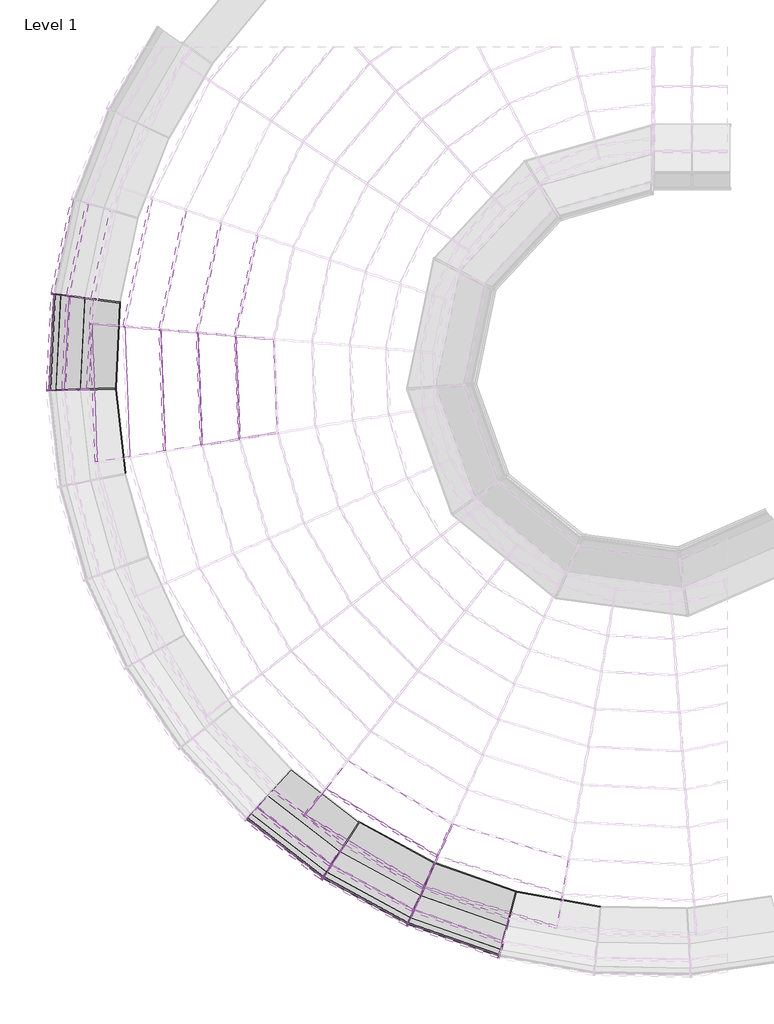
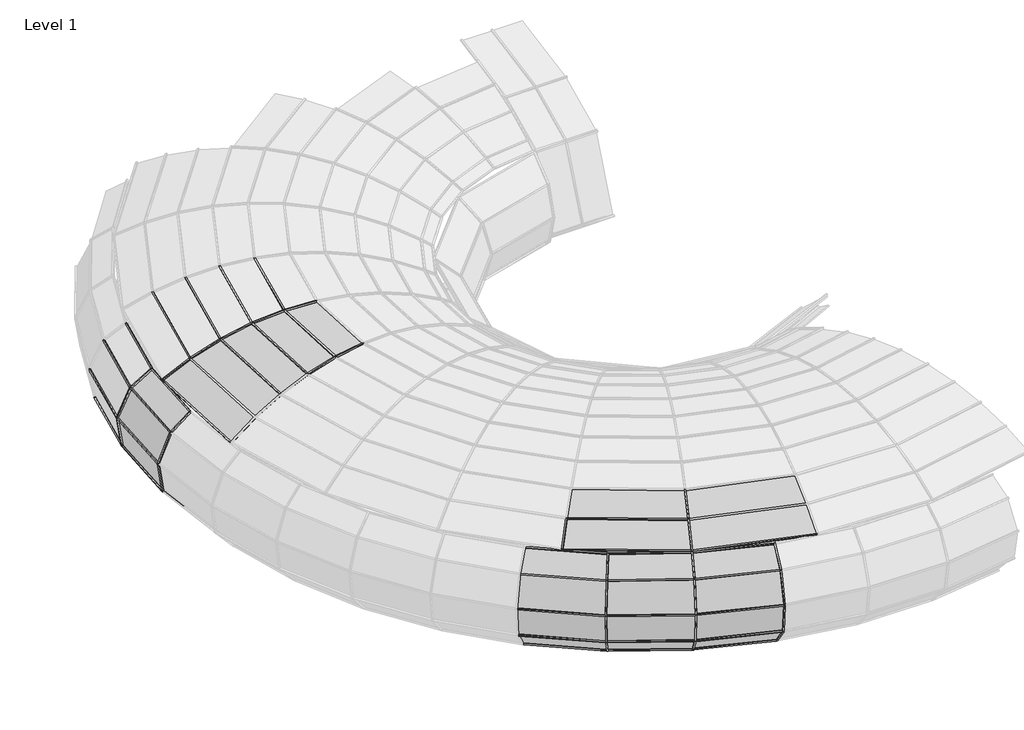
# One storey, part 2 of 23: 76 members, 29 plates.
"""IFC4 building model written with IfcOpenShell, lengths in millimetres."""

from ifc_helpers import new_model, si_unit, origin, place, context, project, spatial, transform, mapped, element, save
from components import member_6c4aaba8, member_0ea93e7c, member_01d9c279, member_12c77cbe, member_af15374c, member_9c203333, member_86c07ba8, member_0e8a41c0, member_f532ae18, member_ff5bcfe9, member_5080b2ef, member_d6b8231b, member_8c9da58c, member_391bee44, member_01ebdf2a, member_0cd36c09, member_e4cc2466, system_panel_glazed_dfe8d515, system_panel_glazed_f0cf6c0b, system_panel_glazed_2b57bb89, system_panel_glazed_39caee5c, system_panel_glazed_2fe36e08, system_panel_glazed_8ac96967, system_panel_glazed_5e26bc8e, system_panel_glazed_f7be4813, system_panel_glazed_5b1ce257, system_panel_glazed_7bf4cd1b

model = new_model("IFC4")

# Units and contexts
model_context = context("Model", 3, world=origin())
ifc_project = project(units=[si_unit("LENGTHUNIT", "METRE", prefix="MILLI")], contexts=[model_context])

# Site, building, storey
site = spatial("IfcSite", under=ifc_project)
building = spatial("IfcBuilding", under=site)
storey = spatial("IfcBuildingStorey", under=building, Name="Level 1", Elevation=0.0)

# Members
placement = place(None, origin())
member_shape = member_6c4aaba8(model_context)
element("IfcMember", 1, ObjectType="Rectangular Mullion : 1\" Square", at=placement, inside=storey, context=model_context, shape_type="MappedRepresentation", body=[
    mapped(member_shape, transform((-18234.6374664, -620.2137756, 2378.3537392), x_axis=(0.8858068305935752, -0.18815306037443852, 0.4241988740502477), y_axis=(-0.41494158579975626, 0.08813719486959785, 0.9055690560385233), z_axis=(-0.20777328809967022, -0.9781770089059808, 0.0))),
])
element("IfcMember", 2, ObjectType="Rectangular Mullion : 1\" Square", at=placement, inside=storey, context=model_context, shape_type="MappedRepresentation", body=[
    mapped(member_shape, transform((-13319.8966208, -8973.2732084, 2378.3537392), x_axis=(0.467424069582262, 0.7756094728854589, 0.4241988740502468), y_axis=(-0.21895708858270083, -0.36332145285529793, 0.9055690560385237), z_axis=(0.8564884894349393, -0.5161661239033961, 0.0))),
])
member_2_shape = member_0ea93e7c(model_context)
element("IfcMember", 3, ObjectType="Rectangular Mullion : 1\" Square", at=placement, inside=storey, context=model_context, shape_type="MappedRepresentation", body=[
    mapped(member_2_shape, transform((-17084.3361766, -718.8343784, 2763.3769688), x_axis=(0.9585255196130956, -0.20359914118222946, 0.1994397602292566), y_axis=(-0.1950873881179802, 0.04143825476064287, 0.97991008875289), z_axis=(-0.2077732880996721, -0.9781770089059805, 0.0))),
])
element("IfcMember", 4, ObjectType="Rectangular Mullion : 1\" Square", at=placement, inside=storey, context=model_context, shape_type="MappedRepresentation", body=[
    mapped(member_2_shape, transform((-17019.4789616, -2495.128698, 2763.3769688), x_axis=(0.9791934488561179, 0.03746961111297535, 0.1994397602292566), y_axis=(-0.1992939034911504, -0.007626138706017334, 0.97991008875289), z_axis=(0.038237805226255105, -0.9992686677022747, 0.0))),
])
member_3_shape = member_01d9c279(model_context)
element("IfcMember", 5, ObjectType="Rectangular Mullion : 1\" Square", at=placement, inside=storey, context=model_context, shape_type="MappedRepresentation", body=[
    mapped(member_3_shape, transform((-16483.1530505, -770.3765638, 2850.17796), x_axis=(0.9748671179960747, -0.20707023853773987, 0.08219500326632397), y_axis=(-0.08040126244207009, 0.01707792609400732, 0.9966162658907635), z_axis=(-0.20777328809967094, -0.9781770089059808, 0.0))),
])
element("IfcMember", 6, ObjectType="Rectangular Mullion : 1\" Square", at=placement, inside=storey, context=model_context, shape_type="MappedRepresentation", body=[
    mapped(member_3_shape, transform((-16423.9926884, -2397.7950125, 2850.17796), x_axis=(0.9958874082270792, 0.038108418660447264, 0.08219500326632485), y_axis=(-0.08213489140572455, -0.003142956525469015, 0.9966162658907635), z_axis=(0.03823780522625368, -0.9992686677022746, 0.0))),
])
member_4_shape = member_12c77cbe(model_context)
element("IfcMember", 7, ObjectType="Rectangular Mullion : 1\" Square", at=placement, inside=storey, context=model_context, shape_type="MappedRepresentation", body=[
    mapped(member_4_shape, transform((-17600.5301102, -2590.1029272, 2605.3528615), x_axis=(0.9487397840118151, 0.036304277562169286, 0.3139662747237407), y_axis=(-0.3137366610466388, -0.012005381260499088, 0.9494341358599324), z_axis=(0.03823780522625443, -0.9992686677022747, 0.0))),
])
element("IfcMember", 8, ObjectType="Rectangular Mullion : 1\" Square", at=placement, inside=storey, context=model_context, shape_type="MappedRepresentation", body=[
    mapped(member_4_shape, transform((-17670.9460812, -668.5416221, 2605.3528615), x_axis=(0.9287146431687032, -0.1972670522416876, 0.3139662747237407), y_axis=(-0.3071145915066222, 0.06523380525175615, 0.9494341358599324), z_axis=(-0.20777328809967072, -0.9781770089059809, 0.0))),
])
member_5_shape = member_af15374c(model_context)
element("IfcMember", 9, ObjectType="Rectangular Mullion : 1\" Square", at=placement, inside=storey, context=model_context, shape_type="MappedRepresentation", body=[
    mapped(member_5_shape, transform((-18769.5441808, -599.6519261, 2085.6089632), x_axis=(-0.8749441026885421, -0.033480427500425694, -0.4830650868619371), y_axis=(-0.4827118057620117, -0.01847134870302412, 0.8755844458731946), z_axis=(-0.03823780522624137, 0.9992686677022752, 0.0))),
])
element("IfcMember", 10, ObjectType="Rectangular Mullion : 1\" Square", at=placement, inside=storey, context=model_context, shape_type="MappedRepresentation", body=[
    mapped(member_5_shape, transform((-15395.4434712, -8341.9634909, 2085.6089632), x_axis=(-0.45194702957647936, -0.7499279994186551, -0.48306508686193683), y_axis=(-0.24934183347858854, -0.41373968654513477, 0.8755844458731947), z_axis=(-0.8564884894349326, 0.516166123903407, 0.0))),
])
element("IfcMember", 11, ObjectType="Rectangular Mullion : 1\" Square", at=placement, inside=storey, context=model_context, shape_type="MappedRepresentation", body=[
    mapped(member_5_shape, transform((-13514.2142778, -9472.0603684, 2085.6089632), x_axis=(-0.25441938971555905, -0.8378060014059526, -0.48306508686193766), y_axis=(-0.14036467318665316, -0.4622224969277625, 0.8755844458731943), z_axis=(-0.956853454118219, 0.2905709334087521, 0.0))),
])
member_6_shape = member_9c203333(model_context)
element("IfcMember", 12, ObjectType="Rectangular Mullion : 1\" Square", at=placement, inside=storey, context=model_context, shape_type="MappedRepresentation", body=[
    mapped(member_6_shape, transform((-18301.5304624, -271.2213628, 0.0), x_axis=(0.9585248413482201, -0.0468730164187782, -0.28112817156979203), y_axis=(-0.28079263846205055, 0.013731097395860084, -0.9596702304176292), z_axis=(0.04884283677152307, 0.9988064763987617, 0.0))),
])
element("IfcMember", 13, ObjectType="Rectangular Mullion : 1\" Square", at=placement, inside=storey, context=model_context, shape_type="MappedRepresentation", body=[
    mapped(member_6_shape, transform((-18365.6119929, -1623.1277154, 0.0), x_axis=(0.9537279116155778, 0.10663030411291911, -0.2811281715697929), y_axis=(-0.2793874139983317, -0.031236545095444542, -0.959670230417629), z_axis=(-0.11111140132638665, 0.9938079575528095, 0.0))),
])
element("IfcMember", 14, ObjectType="Rectangular Mullion : 1\" Square", at=placement, inside=storey, context=model_context, shape_type="MappedRepresentation", body=[
    mapped(member_6_shape, transform((-14525.3059451, -8435.0631965, 0.0), x_axis=(0.4586019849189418, 0.8430012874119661, -0.2811281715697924), y_axis=(-0.13434400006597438, -0.24695088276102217, -0.9596702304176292), z_axis=(-0.8784280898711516, 0.47787455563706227, 0.0))),
])
element("IfcMember", 15, ObjectType="Rectangular Mullion : 1\" Square", at=placement, inside=storey, context=model_context, shape_type="MappedRepresentation", body=[
    mapped(member_6_shape, transform((-13335.4532661, -9080.0498871, 0.0), x_axis=(0.31825462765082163, 0.9053623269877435, -0.2811281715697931), y_axis=(-0.09323029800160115, -0.2652190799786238, -0.9596702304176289), z_axis=(-0.9434098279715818, 0.33162915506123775, 0.0))),
])
element("IfcMember", 16, ObjectType="Rectangular Mullion : 1\" Square", at=placement, inside=storey, context=model_context, shape_type="MappedRepresentation", body=[
    mapped(member_6_shape, transform((-12057.9491024, -9526.9730801, 0.0), x_axis=(0.16975666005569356, 0.9445367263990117, -0.2811281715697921), y_axis=(-0.0497289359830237, -0.2766949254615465, -0.9596702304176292), z_axis=(-0.984230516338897, 0.17689061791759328, 0.0))),
])
member_7_shape = member_86c07ba8(model_context)
element("IfcMember", 17, ObjectType="Rectangular Mullion : 1\" Square", at=placement, inside=storey, context=model_context, shape_type="MappedRepresentation", body=[
    mapped(member_7_shape, transform((-18878.5779672, -170.8570646, 170.8694653), x_axis=(-0.8256616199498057, 0.17517737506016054, 0.5362795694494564), y_axis=(-0.5246021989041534, 0.11130278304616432, -0.8440404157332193), z_axis=(-0.20754619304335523, -0.9782252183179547, 0.0))),
])
element("IfcMember", 18, ObjectType="Rectangular Mullion : 1\" Square", at=placement, inside=storey, context=model_context, shape_type="MappedRepresentation", body=[
    mapped(member_7_shape, transform((-18951.2803365, -1616.0987482, 170.8694653), x_axis=(-0.8430330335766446, 0.04122532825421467, 0.5362795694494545), y_axis=(-0.5356395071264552, 0.02619341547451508, -0.8440404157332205), z_axis=(-0.048842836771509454, -0.9988064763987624, 0.0))),
])
element("IfcMember", 19, ObjectType="Rectangular Mullion : 1\" Square", at=placement, inside=storey, context=model_context, shape_type="MappedRepresentation", body=[
    mapped(member_7_shape, transform((-14866.3751386, -8911.223485, 170.8694653), x_axis=(-0.5164526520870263, -0.6675933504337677, 0.5362795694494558), y_axis=(-0.3281395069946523, -0.4241700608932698, -0.8440404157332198), z_axis=(0.7909495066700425, -0.6118814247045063, 0.0))),
])
element("IfcMember", 20, ObjectType="Rectangular Mullion : 1\" Square", at=placement, inside=storey, context=model_context, shape_type="MappedRepresentation", body=[
    mapped(member_7_shape, transform((-13596.1983079, -9604.5199418, 170.8694653), x_axis=(-0.4033454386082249, -0.7414288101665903, 0.536279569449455), y_axis=(-0.25627436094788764, -0.4710830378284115, -0.8440404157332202), z_axis=(0.8784280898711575, -0.4778745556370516, 0.0))),
])
element("IfcMember", 21, ObjectType="Rectangular Mullion : 1\" Square", at=placement, inside=storey, context=model_context, shape_type="MappedRepresentation", body=[
    mapped(member_7_shape, transform((-12231.6922224, -10086.3210429, 170.8694653), x_axis=(-0.27990840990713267, -0.796276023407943, 0.5362795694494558), y_axis=(-0.1778459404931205, -0.5059314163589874, -0.8440404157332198), z_axis=(0.9434098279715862, -0.3316291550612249, 0.0))),
])
member_8_shape = member_0e8a41c0(model_context)
element("IfcMember", 22, ObjectType="Rectangular Mullion : 1\" Square", at=placement, inside=storey, context=model_context, shape_type="MappedRepresentation", body=[
    mapped(member_8_shape, transform((-19276.5112364, -119.2515567, 629.7792003), x_axis=(-0.41308319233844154, 0.0876422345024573, 0.9064662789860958), y_axis=(-0.8867281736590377, 0.1881336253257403, -0.42227820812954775), z_axis=(-0.20754619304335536, -0.9782252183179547, 0.0))),
])
element("IfcMember", 23, ObjectType="Rectangular Mullion : 1\" Square", at=placement, inside=storey, context=model_context, shape_type="MappedRepresentation", body=[
    mapped(member_8_shape, transform((-19352.3500705, -1628.6320493, 629.7792003), x_axis=(-0.42177420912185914, 0.020625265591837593, 0.9064662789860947), y_axis=(-0.9053843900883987, 0.044274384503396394, -0.42227820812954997), z_axis=(-0.04884283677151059, -0.9988064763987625, 0.0))),
])
element("IfcMember", 24, ObjectType="Rectangular Mullion : 1\" Square", at=placement, inside=storey, context=model_context, shape_type="MappedRepresentation", body=[
    mapped(member_8_shape, transform((-15085.7191992, -9247.2327084, 629.7792003), x_axis=(-0.25838419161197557, -0.33400074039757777, 0.9064662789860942), y_axis=(-0.5546498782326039, -0.7169690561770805, -0.4222782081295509), z_axis=(0.7909495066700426, -0.6118814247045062, 0.0))),
])
element("IfcMember", 25, ObjectType="Rectangular Mullion : 1\" Square", at=placement, inside=storey, context=model_context, shape_type="MappedRepresentation", body=[
    mapped(member_8_shape, transform((-13759.133712, -9971.2160957, 629.7792003), x_axis=(-0.20179601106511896, -0.3709410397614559, 0.9064662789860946), y_axis=(-0.4331771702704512, -0.7962654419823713, -0.42227820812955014), z_axis=(0.8784280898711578, -0.47787455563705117, 0.0))),
])
element("IfcMember", 26, ObjectType="Rectangular Mullion : 1\" Square", at=placement, inside=storey, context=model_context, shape_type="MappedRepresentation", body=[
    mapped(member_8_shape, transform((-12334.0461382, -10474.3129127, 629.7792003), x_axis=(-0.14003976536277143, -0.3983814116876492, 0.9064662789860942), y_axis=(-0.30061064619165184, -0.8551691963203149, -0.4222782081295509), z_axis=(0.943409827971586, -0.33162915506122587, 0.0))),
])
member_9_shape = member_f532ae18(model_context)
element("IfcMember", 27, ObjectType="Rectangular Mullion : 1\" Square", at=placement, inside=storey, context=model_context, shape_type="MappedRepresentation", body=[
    mapped(member_9_shape, transform((-19367.0167724, -107.5144527, 1232.5089476), x_axis=(0.13104349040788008, -0.027802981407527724, 0.9909866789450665), y_axis=(-0.969408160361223, 0.2056755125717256, 0.13396044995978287), z_axis=(-0.20754619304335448, -0.978225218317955, 0.0))),
])
element("IfcMember", 28, ObjectType="Rectangular Mullion : 1\" Square", at=placement, inside=storey, context=model_context, shape_type="MappedRepresentation", body=[
    mapped(member_9_shape, transform((-19443.5689609, -1631.4826104, 1232.5089476), x_axis=(0.13380056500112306, -0.006543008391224, 0.9909866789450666), y_axis=(-0.9898039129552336, 0.04840260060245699, 0.13396044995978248), z_axis=(-0.04884283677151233, -0.9988064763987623, 0.0))),
])
element("IfcMember", 29, ObjectType="Rectangular Mullion : 1\" Square", at=placement, inside=storey, context=model_context, shape_type="MappedRepresentation", body=[
    mapped(member_9_shape, transform((-15135.6065882, -9323.6543028, 1232.5089476), x_axis=(0.08196791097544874, 0.10595595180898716, 0.9909866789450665), y_axis=(-0.606366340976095, -0.7838204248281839, 0.13396044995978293), z_axis=(0.7909495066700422, -0.6118814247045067, 0.0))),
])
element("IfcMember", 30, ObjectType="Rectangular Mullion : 1\" Square", at=placement, inside=storey, context=model_context, shape_type="MappedRepresentation", body=[
    mapped(member_9_shape, transform((-13796.1915737, -10054.6170941, 1232.5089476), x_axis=(0.06401629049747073, 0.11767462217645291, 0.9909866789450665), y_axis=(-0.47356731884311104, -0.870510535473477, 0.13396044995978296), z_axis=(0.8784280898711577, -0.47787455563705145, 0.0))),
])
element("IfcMember", 31, ObjectType="Rectangular Mullion : 1\" Square", at=placement, inside=storey, context=model_context, shape_type="MappedRepresentation", body=[
    mapped(member_9_shape, transform((-12357.3254083, -10562.5573871, 1232.5089476), x_axis=(0.044425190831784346, 0.12637960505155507, 0.9909866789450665), y_axis=(-0.3286400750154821, -0.9349065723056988, 0.13396044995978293), z_axis=(0.9434098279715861, -0.33162915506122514, 0.0))),
])
member_10_shape = member_ff5bcfe9(model_context)
element("IfcMember", 32, ObjectType="Rectangular Mullion : 1\" Square", at=placement, inside=storey, context=model_context, shape_type="MappedRepresentation", body=[
    mapped(member_10_shape, transform((-19121.651658, -139.334339, 1789.6405438), x_axis=(0.6333020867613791, -0.13436521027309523, 0.7621512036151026), y_axis=(-0.7455555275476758, 0.15818158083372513, 0.6473990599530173), z_axis=(-0.20754619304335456, -0.9782252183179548, 0.0))),
])
element("IfcMember", 33, ObjectType="Rectangular Mullion : 1\" Square", at=placement, inside=storey, context=model_context, shape_type="MappedRepresentation", body=[
    mapped(member_10_shape, transform((-19196.2699065, -1623.754594, 1789.6405438), x_axis=(0.6466263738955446, -0.031620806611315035, 0.7621512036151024), y_axis=(-0.7612415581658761, 0.03722562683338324, 0.6473990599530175), z_axis=(-0.0488428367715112, -0.9988064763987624, 0.0))),
])
element("IfcMember", 34, ObjectType="Rectangular Mullion : 1\" Square", at=placement, inside=storey, context=model_context, shape_type="MappedRepresentation", body=[
    mapped(member_10_shape, transform((-15000.3593377, -9116.471471, 1789.6405438), x_axis=(0.39613145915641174, 0.5120599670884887, 0.7621512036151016), y_axis=(-0.4663461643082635, -0.6028231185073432, 0.6473990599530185), z_axis=(0.7909495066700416, -0.6118814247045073, 0.0))),
])
element("IfcMember", 35, ObjectType="Rectangular Mullion : 1\" Square", at=placement, inside=storey, context=model_context, shape_type="MappedRepresentation", body=[
    mapped(member_10_shape, transform((-13695.7258244, -9828.5127426, 1789.6405438), x_axis=(0.30937553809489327, 0.5686935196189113, 0.762151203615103), y_axis=(-0.3642126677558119, -0.6694950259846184, 0.6473990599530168), z_axis=(0.8784280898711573, -0.4778745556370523, 0.0))),
])
element("IfcMember", 36, ObjectType="Rectangular Mullion : 1\" Square", at=placement, inside=storey, context=model_context, shape_type="MappedRepresentation", body=[
    mapped(member_10_shape, transform((-12294.2141225, -10323.322126, 1789.6405438), x_axis=(0.21469640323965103, 0.6107626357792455, 0.7621512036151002), y_axis=(-0.25275155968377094, -0.7190209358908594, 0.6473990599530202), z_axis=(0.9434098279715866, -0.3316291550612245, 0.0))),
])
member_11_shape = member_5080b2ef(model_context)
element("IfcMember", 37, ObjectType="Rectangular Mullion : 1\" Square", at=placement, inside=storey, context=model_context, shape_type="MappedRepresentation", body=[
    mapped(member_11_shape, transform((-18726.0639055, -190.6356713, 2085.6089632), x_axis=(0.7847040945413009, -0.16648757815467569, 0.597094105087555), y_axis=(-0.5840925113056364, 0.12392460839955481, 0.8021711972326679), z_axis=(-0.20754619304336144, -0.9782252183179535, 0.0))),
])
element("IfcMember", 38, ObjectType="Rectangular Mullion : 1\" Square", at=placement, inside=storey, context=model_context, shape_type="MappedRepresentation", body=[
    mapped(member_11_shape, transform((-18797.5641763, -1611.2951673, 2085.6089632), x_axis=(0.8012137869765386, -0.03918031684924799, 0.5970941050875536), y_axis=(-0.5963814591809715, 0.029163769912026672, 0.802171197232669), z_axis=(-0.04884283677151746, -0.9988064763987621, 0.0))),
])
element("IfcMember", 39, ObjectType="Rectangular Mullion : 1\" Square", at=placement, inside=storey, context=model_context, shape_type="MappedRepresentation", body=[
    mapped(member_11_shape, transform((-14782.308145, -8782.4427687, 2085.6089632), x_axis=(0.4908336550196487, 0.6344769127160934, 0.5970941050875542), y_axis=(-0.36535079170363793, -0.4722712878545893, 0.8021711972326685), z_axis=(0.7909495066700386, -0.6118814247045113, 0.0))),
])
element("IfcMember", 40, ObjectType="Rectangular Mullion : 1\" Square", at=placement, inside=storey, context=model_context, shape_type="MappedRepresentation", body=[
    mapped(member_11_shape, transform((-13533.7508017, -9463.9779862, 2085.6089632), x_axis=(0.3833372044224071, 0.7046497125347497, 0.5970941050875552), y_axis=(-0.2853360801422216, -0.5245042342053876, 0.8021711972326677), z_axis=(0.8784280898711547, -0.477874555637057, 0.0))),
])
element("IfcMember", 41, ObjectType="Rectangular Mullion : 1\" Square", at=placement, inside=storey, context=model_context, shape_type="MappedRepresentation", body=[
    mapped(member_11_shape, transform((-12192.4635058, -9937.6171757, 2085.6089632), x_axis=(0.266023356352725, 0.7567761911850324, 0.5970941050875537), y_axis=(-0.19801381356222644, -0.5633044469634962, 0.802171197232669), z_axis=(0.9434098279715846, -0.3316291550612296, 0.0))),
])
member_12_shape = member_d6b8231b(model_context)
element("IfcMember", 42, ObjectType="Rectangular Mullion : 1\" Square", at=placement, inside=storey, context=model_context, shape_type="MappedRepresentation", body=[
    mapped(member_12_shape, transform((-12070.44883, -9524.7265693, 0.0), x_axis=(0.9669205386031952, -0.2550777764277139, 0.0), y_axis=(-0.07149770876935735, -0.27102558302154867, -0.959913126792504), z_axis=(0.2448525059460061, 0.9281597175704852, -0.28029767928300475))),
])
element("IfcMember", 43, ObjectType="Rectangular Mullion : 1\" Square", at=placement, inside=storey, context=model_context, shape_type="MappedRepresentation", body=[
    mapped(member_12_shape, transform((-13347.4345709, -9075.8381968, 0.0), x_axis=(0.9138491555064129, -0.40605384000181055, 0.0), y_axis=(-0.11381594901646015, -0.25614979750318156, -0.9599131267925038), z_axis=(0.38977641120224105, 0.8772158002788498, -0.2802976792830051))),
])
element("IfcMember", 44, ObjectType="Rectangular Mullion : 1\" Square", at=placement, inside=storey, context=model_context, shape_type="MappedRepresentation", body=[
    mapped(member_12_shape, transform((-14536.4619818, -8428.9941896, 0.0), x_axis=(0.8373737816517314, -0.5466307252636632, 0.0), y_axis=(-0.15321932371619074, -0.2347139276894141, -0.959913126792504), z_axis=(0.5247180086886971, 0.8038060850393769, -0.28029767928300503))),
])
element("IfcMember", 45, ObjectType="Rectangular Mullion : 1\" Square", at=placement, inside=storey, context=model_context, shape_type="MappedRepresentation", body=[
    mapped(member_12_shape, transform((-18367.0231077, -1610.5063544, 0.0), x_axis=(0.031234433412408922, -0.9995120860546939, 0.0), y_axis=(-0.2801609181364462, -0.008754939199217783, -0.9599131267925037), z_axis=(0.9594447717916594, 0.029982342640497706, -0.2802976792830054))),
])
element("IfcMember", 46, ObjectType="Rectangular Mullion : 1\" Square", at=placement, inside=storey, context=model_context, shape_type="MappedRepresentation", body=[
    mapped(member_12_shape, transform((-18300.9101584, -258.5365206, 0.0), x_axis=(-0.1286068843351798, -0.9916956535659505, 0.0), y_axis=(-0.27796999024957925, 0.036048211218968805, -0.9599131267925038), z_axis=(0.9519416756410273, -0.12345143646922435, -0.2802976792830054))),
])
member_13_shape = member_8c9da58c(model_context)
element("IfcMember", 47, ObjectType="Rectangular Mullion : 1\" Square", at=placement, inside=storey, context=model_context, shape_type="MappedRepresentation", body=[
    mapped(member_13_shape, transform((-18881.2138039, -183.2805249, 170.8694653), x_axis=(-0.12860688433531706, -0.9916956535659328, 0.0), y_axis=(-0.7465531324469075, 0.09681586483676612, -0.6582439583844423), z_axis=(0.6527776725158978, -0.08465470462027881, -0.7528046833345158))),
])
element("IfcMember", 48, ObjectType="Rectangular Mullion : 1\" Square", at=placement, inside=storey, context=model_context, shape_type="MappedRepresentation", body=[
    mapped(member_13_shape, transform((-19279.147073, -131.675017, 629.7792003), x_axis=(-0.12860688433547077, -0.9916956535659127, 0.0), y_axis=(-0.980519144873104, 0.12715747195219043, -0.1497103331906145), z_axis=(0.14846708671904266, -0.019253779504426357, -0.988729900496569))),
])
element("IfcMember", 49, ObjectType="Rectangular Mullion : 1\" Square", at=placement, inside=storey, context=model_context, shape_type="MappedRepresentation", body=[
    mapped(member_13_shape, transform((-18951.9006405, -1628.7835904, 170.8694653), x_axis=(0.031234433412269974, -0.9995120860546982, 0.0), y_axis=(-0.7524373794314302, -0.023513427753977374, -0.658243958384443), z_axis=(0.6579227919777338, 0.020559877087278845, -0.7528046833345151))),
])
element("IfcMember", 50, ObjectType="Rectangular Mullion : 1\" Square", at=placement, inside=storey, context=model_context, shape_type="MappedRepresentation", body=[
    mapped(member_13_shape, transform((-14856.3300799, -8918.9943791, 170.8694653), x_axis=(0.8373737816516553, -0.5466307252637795, 0.0), y_axis=(-0.4115061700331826, -0.6303789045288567, -0.6582439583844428), z_axis=(0.35981637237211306, 0.5511962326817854, -0.7528046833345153))),
])
element("IfcMember", 51, ObjectType="Rectangular Mullion : 1\" Square", at=placement, inside=storey, context=model_context, shape_type="MappedRepresentation", body=[
    mapped(member_13_shape, transform((-13585.0422712, -9610.5889486, 170.8694653), x_axis=(0.9138491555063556, -0.40605384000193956, 0.0), y_axis=(-0.3056792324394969, -0.6879499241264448, -0.6582439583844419), z_axis=(0.2672824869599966, 0.6015356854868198, -0.7528046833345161))),
])
element("IfcMember", 52, ObjectType="Rectangular Mullion : 1\" Square", at=placement, inside=storey, context=model_context, shape_type="MappedRepresentation", body=[
    mapped(member_13_shape, transform((-12219.7109176, -10090.5327331, 170.8694653), x_axis=(0.9669205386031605, -0.2550777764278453, 0.0), y_axis=(-0.19202374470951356, -0.7279023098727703, -0.6582439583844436), z_axis=(0.1679034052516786, 0.6364696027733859, -0.7528046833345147))),
])
member_14_shape = member_391bee44(model_context)
element("IfcMember", 53, ObjectType="Rectangular Mullion : 1\" Square", at=placement, inside=storey, context=model_context, shape_type="MappedRepresentation", body=[
    mapped(member_14_shape, transform((-19369.6526091, -119.937913, 1232.5089476), x_axis=(-0.1286068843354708, -0.9916956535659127, 0.0), y_axis=(-0.9063401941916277, 0.11753766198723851, 0.4058723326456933), z_axis=(-0.4025018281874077, 0.05219797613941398, -0.9139297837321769))),
])
member_15_shape = member_01ebdf2a(model_context)
element("IfcMember", 54, ObjectType="Rectangular Mullion : 1\" Square", at=placement, inside=storey, context=model_context, shape_type="MappedRepresentation", body=[
    mapped(member_15_shape, transform((-19124.2874946, -151.7577992, 1789.6405438), x_axis=(-0.1286068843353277, -0.9916956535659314, 0.0), y_axis=(-0.5909117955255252, 0.07663170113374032, 0.8030883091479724), z_axis=(-0.7964191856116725, 0.10328268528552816, -0.5958600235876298))),
])
element("IfcMember", 55, ObjectType="Rectangular Mullion : 1\" Square", at=placement, inside=storey, context=model_context, shape_type="MappedRepresentation", body=[
    mapped(member_13_shape, transform((-19352.9703745, -1641.3168915, 629.7792003), x_axis=(0.031234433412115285, -0.9995120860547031, 0.0), y_axis=(-0.9882474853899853, -0.030882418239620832, -0.14971033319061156), z_axis=(0.14963728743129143, 0.0046761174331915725, -0.9887299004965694))),
])
element("IfcMember", 56, ObjectType="Rectangular Mullion : 1\" Square", at=placement, inside=storey, context=model_context, shape_type="MappedRepresentation", body=[
    mapped(member_13_shape, transform((-15075.6741405, -9255.0036025, 629.7792003), x_axis=(0.8373737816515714, -0.5466307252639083, 0.0), y_axis=(-0.5404701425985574, -0.8279364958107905, -0.14971033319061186), z_axis=(0.08183626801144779, 0.12536350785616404, -0.9887299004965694))),
])
element("IfcMember", 57, ObjectType="Rectangular Mullion : 1\" Square", at=placement, inside=storey, context=model_context, shape_type="MappedRepresentation", body=[
    mapped(member_13_shape, transform((-13747.9776752, -9977.2851025, 629.7792003), x_axis=(0.9138491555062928, -0.406053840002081, 0.0), y_axis=(-0.4014775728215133, -0.9035499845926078, -0.14971033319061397), z_axis=(0.060790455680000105, 0.13681266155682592, -0.9887299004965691))),
])
element("IfcMember", 58, ObjectType="Rectangular Mullion : 1\" Square", at=placement, inside=storey, context=model_context, shape_type="MappedRepresentation", body=[
    mapped(member_13_shape, transform((-12322.0648334, -10478.524603, 629.7792003), x_axis=(0.9669205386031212, -0.2550777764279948, 0.0), y_axis=(-0.2522030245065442, -0.9560232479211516, -0.14971033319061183), z_axis=(0.03818777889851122, 0.1447579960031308, -0.9887299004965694))),
])
element("IfcMember", 59, ObjectType="Rectangular Mullion : 1\" Square", at=placement, inside=storey, context=model_context, shape_type="MappedRepresentation", body=[
    mapped(member_14_shape, transform((-19444.189265, -1644.1674527, 1232.5089476), x_axis=(0.03123443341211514, -0.9995120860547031, 0.0), y_axis=(-0.913483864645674, -0.02854607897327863, 0.40587233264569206), z_axis=(-0.4056743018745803, -0.012677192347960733, -0.9139297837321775))),
])
element("IfcMember", 60, ObjectType="Rectangular Mullion : 1\" Square", at=placement, inside=storey, context=model_context, shape_type="MappedRepresentation", body=[
    mapped(member_14_shape, transform((-15125.5615295, -9331.4251969, 1232.5089476), x_axis=(0.8373737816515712, -0.5466307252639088, 0.0), y_axis=(-0.49958210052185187, -0.7653008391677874, 0.40587233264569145), z_axis=(-0.22186228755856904, -0.3398668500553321, -0.9139297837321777))),
])
element("IfcMember", 61, ObjectType="Rectangular Mullion : 1\" Square", at=placement, inside=storey, context=model_context, shape_type="MappedRepresentation", body=[
    mapped(member_14_shape, transform((-13785.035537, -10060.686101, 1232.5089476), x_axis=(0.9138491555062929, -0.40605384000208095, 0.0), y_axis=(-0.3711046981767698, -0.8351939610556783, 0.4058723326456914), z_axis=(-0.16480601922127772, -0.3709060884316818, -0.9139297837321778))),
])
element("IfcMember", 62, ObjectType="Rectangular Mullion : 1\" Square", at=placement, inside=storey, context=model_context, shape_type="MappedRepresentation", body=[
    mapped(member_14_shape, transform((-12345.3441035, -10566.7690773, 1232.5089476), x_axis=(0.9669205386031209, -0.2550777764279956, 0.0), y_axis=(-0.23312317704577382, -0.8836974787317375, 0.4058723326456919), z_axis=(-0.10352901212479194, -0.3924462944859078, -0.9139297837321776))),
])
element("IfcMember", 63, ObjectType="Rectangular Mullion : 1\" Square", at=placement, inside=storey, context=model_context, shape_type="MappedRepresentation", body=[
    mapped(member_15_shape, transform((-19196.8902105, -1636.4394362, 1789.6405438), x_axis=(0.031234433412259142, -0.9995120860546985, 0.0), y_axis=(-0.5955692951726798, -0.018611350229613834, 0.8030883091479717), z_axis=(-0.802696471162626, -0.025084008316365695, -0.5958600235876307))),
])
element("IfcMember", 64, ObjectType="Rectangular Mullion : 1\" Square", at=placement, inside=storey, context=model_context, shape_type="MappedRepresentation", body=[
    mapped(member_15_shape, transform((-14990.314279, -9124.2423651, 1789.6405438), x_axis=(0.8373737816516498, -0.5466307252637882, 0.0), y_axis=(-0.3257153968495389, -0.4989575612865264, 0.8030883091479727), z_axis=(-0.4389927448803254, -0.6724850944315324, -0.5958600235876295))),
])
element("IfcMember", 65, ObjectType="Rectangular Mullion : 1\" Square", at=placement, inside=storey, context=model_context, shape_type="MappedRepresentation", body=[
    mapped(member_15_shape, transform((-13684.5697877, -9834.5817495, 1789.6405438), x_axis=(0.9138491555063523, -0.406053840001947, 0.0), y_axis=(-0.24195125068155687, -0.5445261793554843, 0.8030883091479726), z_axis=(-0.32609709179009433, -0.7339015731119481, -0.5958600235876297))),
])
element("IfcMember", 66, ObjectType="Rectangular Mullion : 1\" Square", at=placement, inside=storey, context=model_context, shape_type="MappedRepresentation", body=[
    mapped(member_15_shape, transform((-12282.2328177, -10327.5338162, 1789.6405438), x_axis=(0.9669205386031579, -0.25507777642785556, 0.0), y_axis=(-0.1519906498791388, -0.5761492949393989, 0.8030883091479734), z_axis=(-0.20484998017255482, -0.7765225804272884, -0.5958600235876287))),
])
member_16_shape = member_0cd36c09(model_context)
element("IfcMember", 67, ObjectType="Rectangular Mullion : 1\" Square", at=placement, inside=storey, context=model_context, shape_type="MappedRepresentation", body=[
    mapped(member_16_shape, transform((-18237.2761871, -632.6366236, 2378.3537392), x_axis=(-0.08542121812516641, -0.9963449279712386, 0.0), y_axis=(-0.371012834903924, 0.031808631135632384, 0.9280828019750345), z_axis=(-0.9246905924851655, 0.0792779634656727, -0.37237388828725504))),
])
element("IfcMember", 68, ObjectType="Rectangular Mullion : 1\" Square", at=placement, inside=storey, context=model_context, shape_type="MappedRepresentation", body=[
    mapped(member_16_shape, transform((-17673.584802, -680.9644702, 2605.3528615), x_axis=(-0.08542121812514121, -0.9963449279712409, 0.0), y_axis=(-0.25827840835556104, 0.022143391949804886, 0.965816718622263), z_axis=(-0.9622865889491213, 0.08250124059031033, -0.25922589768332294))),
])
element("IfcMember", 69, ObjectType="Rectangular Mullion : 1\" Square", at=placement, inside=storey, context=model_context, shape_type="MappedRepresentation", body=[
    mapped(member_16_shape, transform((-17086.9748973, -731.2572264, 2763.3769688), x_axis=(-0.08542121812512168, -0.9963449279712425, 0.0), y_axis=(-0.14186963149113, 0.012163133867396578, 0.9898106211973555), z_axis=(-0.9861927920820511, 0.08455082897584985, -0.14239007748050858))),
])
element("IfcMember", 70, ObjectType="Rectangular Mullion : 1\" Square", at=placement, inside=storey, context=model_context, shape_type="MappedRepresentation", body=[
    mapped(member_16_shape, transform((-16485.7917713, -782.7994118, 2850.17796), x_axis=(-0.0854212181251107, -0.9963449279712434, 0.0), y_axis=(-0.023442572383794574, 0.0020098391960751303, 0.9997231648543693), z_axis=(-0.9960691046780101, 0.08539757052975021, -0.023528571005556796))),
])
element("IfcMember", 71, ObjectType="Rectangular Mullion : 1\" Square", at=placement, inside=storey, context=model_context, shape_type="MappedRepresentation", body=[
    mapped(member_16_shape, transform((-17018.9933415, -2507.8194101, 2763.3769688), x_axis=(0.16131178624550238, -0.9869034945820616, 0.0), y_axis=(-0.14052526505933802, -0.02296919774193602, 0.9898106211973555), z_axis=(-0.9768475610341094, -0.15966811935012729, -0.14239007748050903))),
])
element("IfcMember", 72, ObjectType="Rectangular Mullion : 1\" Square", at=placement, inside=storey, context=model_context, shape_type="MappedRepresentation", body=[
    mapped(member_16_shape, transform((-13309.019217, -8979.8285181, 2378.3537392), x_axis=(0.9136605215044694, -0.40647810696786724, 0.0), y_axis=(-0.1513618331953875, -0.34022332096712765, 0.9280828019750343), z_axis=(-0.37724534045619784, -0.8479526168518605, -0.37237388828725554))),
])
element("IfcMember", 73, ObjectType="Rectangular Mullion : 1\" Square", at=placement, inside=storey, context=model_context, shape_type="MappedRepresentation", body=[
    mapped(member_16_shape, transform((-16423.5070683, -2410.4857246, 2850.17796), x_axis=(0.16131178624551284, -0.98690349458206, 0.0), y_axis=(-0.023220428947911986, -0.0037954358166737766, 0.9997231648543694), z_axis=(-0.9866302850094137, -0.16126712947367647, -0.02352857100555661))),
])
member_17_shape = member_e4cc2466(model_context)
element("IfcMember", 74, ObjectType="Rectangular Mullion : 1\" Square", at=placement, inside=storey, context=model_context, shape_type="MappedRepresentation", body=[
    mapped(member_17_shape, transform((-18770.029801, -586.9612141, 2085.6089632), x_axis=(-0.08542121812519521, -0.9963449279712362, 0.0), y_axis=(-0.4784691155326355, 0.04102135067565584, 0.8771456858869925), z_axis=(-0.8739396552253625, 0.0749268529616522, -0.4802243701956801))),
])
element("IfcMember", 75, ObjectType="Rectangular Mullion : 1\" Square", at=placement, inside=storey, context=model_context, shape_type="MappedRepresentation", body=[
    mapped(member_17_shape, transform((-13526.3663167, -9468.3701175, 2085.6089632), x_axis=(0.9136605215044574, -0.4064781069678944, 0.0), y_axis=(-0.19520069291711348, -0.4387620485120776, 0.8771456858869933), z_axis=(-0.3565405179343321, -0.8014133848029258, -0.4802243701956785))),
])
element("IfcMember", 76, ObjectType="Rectangular Mullion : 1\" Square", at=placement, inside=storey, context=model_context, shape_type="MappedRepresentation", body=[
    mapped(member_17_shape, transform((-15406.320875, -8335.4081811, 2085.6089632), x_axis=(0.7862120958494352, -0.6179567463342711, 0.0), y_axis=(-0.29675788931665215, -0.37755820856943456, 0.8771456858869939), z_axis=(-0.5420380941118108, -0.6896225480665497, -0.4802243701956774))),
])

# Plates
system_panel_glazed_shape = system_panel_glazed_dfe8d515(model_context)
element("IfcPlate", 77, ObjectType="System Panel : Glazed", at=placement, inside=storey, context=model_context, shape_type="MappedRepresentation", body=[
    mapped(system_panel_glazed_shape, transform((-18358.313164, -933.3308629, 7.1406556), x_axis=(-0.048842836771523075, -0.9988064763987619, 0.0), y_axis=(0.2807926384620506, -0.013731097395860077, 0.9596702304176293), z_axis=(-0.9585248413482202, 0.04687301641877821, 0.2811281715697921))),
])
element("IfcPlate", 78, ObjectType="System Panel : Glazed", at=placement, inside=storey, context=model_context, shape_type="MappedRepresentation", body=[
    mapped(system_panel_glazed_shape, transform((-15086.6858135, -8034.157205, 7.1406556), x_axis=(0.7909495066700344, -0.6118814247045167, 0.0), y_axis=(0.17201710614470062, 0.22235818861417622, 0.959670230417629), z_axis=(-0.5872043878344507, -0.759050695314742, 0.2811281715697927))),
])
element("IfcPlate", 79, ObjectType="System Panel : Glazed", at=placement, inside=storey, context=model_context, shape_type="MappedRepresentation", body=[
    mapped(system_panel_glazed_shape, transform((-13953.5967668, -8773.8284259, 7.1406556), x_axis=(0.8784280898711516, -0.47787455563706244, 0.0), y_axis=(0.13434400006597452, 0.24695088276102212, 0.9596702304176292), z_axis=(-0.45860198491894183, -0.843001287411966, 0.2811281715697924))),
])
element("IfcPlate", 80, ObjectType="System Panel : Glazed", at=placement, inside=storey, context=model_context, shape_type="MappedRepresentation", body=[
    mapped(system_panel_glazed_shape, transform((-12717.025368, -9323.2785861, 7.1406556), x_axis=(0.9434098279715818, -0.331629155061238, 0.0), y_axis=(0.09323029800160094, 0.2652190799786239, 0.9596702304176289), z_axis=(-0.3182546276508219, -0.9053623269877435, 0.2811281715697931))),
])
system_panel_glazed_2_shape = system_panel_glazed_f0cf6c0b(model_context)
element("IfcPlate", 81, ObjectType="System Panel : Glazed", at=placement, inside=storey, context=model_context, shape_type="MappedRepresentation", body=[
    mapped(system_panel_glazed_2_shape, transform((-18924.8917388, -905.6244898, 180.4433737), x_axis=(-0.048842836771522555, -0.9988064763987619, 0.0), y_axis=(0.7529513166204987, -0.03682022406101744, 0.657045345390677), z_axis=(-0.6562611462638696, 0.03209195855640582, 0.753851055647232))),
])
element("IfcPlate", 82, ObjectType="System Panel : Glazed", at=placement, inside=storey, context=model_context, shape_type="MappedRepresentation", body=[
    mapped(system_panel_glazed_2_shape, transform((-15433.778983, -8482.8277481, 180.4433737), x_axis=(0.7909495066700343, -0.6118814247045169, 0.0), y_axis=(0.46126745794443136, 0.5962581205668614, 0.6570453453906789), z_axis=(-0.4020338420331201, -0.5196896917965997, 0.7538510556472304))),
])
element("IfcPlate", 83, ObjectType="System Panel : Glazed", at=placement, inside=storey, context=model_context, shape_type="MappedRepresentation", body=[
    mapped(system_panel_glazed_2_shape, transform((-14224.6737882, -9272.1216859, 180.4433737), x_axis=(0.8784280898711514, -0.47787455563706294, 0.0), y_axis=(0.360246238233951, 0.6622039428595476, 0.6570453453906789), z_axis=(-0.31398525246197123, -0.577167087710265, 0.7538510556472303))),
])
element("IfcPlate", 84, ObjectType="System Panel : Glazed", at=placement, inside=storey, context=model_context, shape_type="MappedRepresentation", body=[
    mapped(system_panel_glazed_2_shape, transform((-12905.1438659, -9858.4331014, 180.4433737), x_axis=(0.943409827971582, -0.33162915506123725, 0.0), y_axis=(0.24999898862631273, 0.7111904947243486, 0.6570453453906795), z_axis=(-0.2178953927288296, -0.6198630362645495, 0.7538510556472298))),
])
system_panel_glazed_3_shape = system_panel_glazed_2b57bb89(model_context)
element("IfcPlate", 85, ObjectType="System Panel : Glazed", at=placement, inside=storey, context=model_context, shape_type="MappedRepresentation", body=[
    mapped(system_panel_glazed_3_shape, transform((-19317.9518224, -886.4033795, 642.3369711), x_axis=(-0.048842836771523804, -0.9988064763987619, 0.0), y_axis=(0.9876206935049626, -0.04829583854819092, 0.14924100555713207), z_axis=(-0.14906288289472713, 0.0072893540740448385, 0.9888008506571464))),
])
element("IfcPlate", 86, ObjectType="System Panel : Glazed", at=placement, inside=storey, context=model_context, shape_type="MappedRepresentation", body=[
    mapped(system_panel_glazed_3_shape, transform((-15674.5725397, -8794.0899261, 642.3369711), x_axis=(0.7909495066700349, -0.6118814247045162, 0.0), y_axis=(0.6050288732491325, 0.7820915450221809, 0.14924100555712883), z_axis=(-0.09131779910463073, -0.11804209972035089, 0.9888008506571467))),
])
element("IfcPlate", 87, ObjectType="System Panel : Glazed", at=placement, inside=storey, context=model_context, shape_type="MappedRepresentation", body=[
    mapped(system_panel_glazed_3_shape, transform((-14412.7316525, -9617.8092907, 642.3369711), x_axis=(0.8784280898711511, -0.4778745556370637, 0.0), y_axis=(0.4725227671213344, 0.8685904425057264, 0.14924100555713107), z_axis=(-0.07131847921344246, -0.13109749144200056, 0.9888008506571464))),
])
element("IfcPlate", 88, ObjectType="System Panel : Glazed", at=placement, inside=storey, context=model_context, shape_type="MappedRepresentation", body=[
    mapped(system_panel_glazed_3_shape, transform((-13035.6498112, -10229.6929547, 642.3369711), x_axis=(0.9434098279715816, -0.33162915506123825, 0.0), y_axis=(0.32791519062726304, 0.9328444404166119, 0.14924100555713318), z_axis=(-0.049492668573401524, -0.1407954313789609, 0.9888008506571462))),
])
system_panel_glazed_4_shape = system_panel_glazed_39caee5c(model_context)
element("IfcPlate", 89, ObjectType="System Panel : Glazed", at=placement, inside=storey, context=model_context, shape_type="MappedRepresentation", body=[
    mapped(system_panel_glazed_4_shape, transform((-19401.7863101, -882.3037723, 1244.1219817), x_axis=(-0.04884283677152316, -0.9988064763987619, 0.0), y_axis=(0.9133207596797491, -0.044662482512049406, -0.4047844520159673), z_axis=(0.404301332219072, -0.019770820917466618, 0.9144121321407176))),
])
element("IfcPlate", 90, ObjectType="System Panel : Glazed", at=placement, inside=storey, context=model_context, shape_type="MappedRepresentation", body=[
    mapped(system_panel_glazed_4_shape, transform((-15725.9306025, -8860.4780085, 1244.1219817), x_axis=(0.7909495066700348, -0.6118814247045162, 0.0), y_axis=(0.5595117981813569, 0.7232538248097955, -0.40478445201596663), z_axis=(0.2476800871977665, 0.32016406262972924, 0.9144121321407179))),
])
element("IfcPlate", 91, ObjectType="System Panel : Glazed", at=placement, inside=storey, context=model_context, shape_type="MappedRepresentation", body=[
    mapped(system_panel_glazed_4_shape, transform((-14452.8418936, -9691.5398587, 1244.1219817), x_axis=(0.8784280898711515, -0.4778745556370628, 0.0), y_axis=(0.436974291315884, 0.8032453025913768, -0.40478445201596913), z_axis=(0.19343619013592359, 0.3555740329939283, 0.9144121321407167))),
])
element("IfcPlate", 92, ObjectType="System Panel : Glazed", at=placement, inside=storey, context=model_context, shape_type="MappedRepresentation", body=[
    mapped(system_panel_glazed_4_shape, transform((-13063.4849935, -10308.8777433, 1244.1219817), x_axis=(0.9434098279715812, -0.3316291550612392, 0.0), y_axis=(0.30324572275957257, 0.8626653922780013, -0.404784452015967), z_axis=(0.13423832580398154, 0.3818776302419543, 0.9144121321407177))),
])
system_panel_glazed_5_shape = system_panel_glazed_2fe36e08(model_context)
element("IfcPlate", 93, ObjectType="System Panel : Glazed", at=placement, inside=storey, context=model_context, shape_type="MappedRepresentation", body=[
    mapped(system_panel_glazed_5_shape, transform((-19150.4134375, -894.5962078, 1797.2236389), x_axis=(-0.04884283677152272, -0.9988064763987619, 0.0), y_axis=(0.5963814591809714, -0.029163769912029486, -0.802171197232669), z_axis=(0.8012137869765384, -0.03918031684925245, 0.5970941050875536))),
])
element("IfcPlate", 94, ObjectType="System Panel : Glazed", at=placement, inside=storey, context=model_context, shape_type="MappedRepresentation", body=[
    mapped(system_panel_glazed_5_shape, transform((-15571.9364154, -8661.4171752, 1797.2236389), x_axis=(0.7909495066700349, -0.6118814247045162, 0.0), y_axis=(0.36535079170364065, 0.4722712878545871, -0.8021711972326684), z_axis=(0.4908336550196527, 0.6344769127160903, 0.5970941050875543))),
])
element("IfcPlate", 95, ObjectType="System Panel : Glazed", at=placement, inside=storey, context=model_context, shape_type="MappedRepresentation", body=[
    mapped(system_panel_glazed_5_shape, transform((-14332.5736508, -9470.463006, 1797.2236389), x_axis=(0.8784280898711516, -0.47787455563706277, 0.0), y_axis=(0.2853360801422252, 0.5245042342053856, -0.8021711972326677), z_axis=(0.38333720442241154, 0.7046497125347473, 0.5970941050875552))),
])
element("IfcPlate", 96, ObjectType="System Panel : Glazed", at=placement, inside=storey, context=model_context, shape_type="MappedRepresentation", body=[
    mapped(system_panel_glazed_5_shape, transform((-12980.022806, -10071.4467252, 1797.2236389), x_axis=(0.9434098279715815, -0.33162915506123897, 0.0), y_axis=(0.1980138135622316, 0.5633044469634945, -0.802171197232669), z_axis=(0.26602335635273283, 0.7567761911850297, 0.5970941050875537))),
])
system_panel_glazed_6_shape = system_panel_glazed_8ac96967(model_context)
element("IfcPlate", 97, ObjectType="System Panel : Glazed", at=placement, inside=storey, context=model_context, shape_type="MappedRepresentation", body=[
    mapped(system_panel_glazed_6_shape, transform((-18705.8410705, -1682.7861956, 2097.8788164), x_axis=(0.0382378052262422, -0.9992686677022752, 0.0), y_axis=(0.48271180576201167, 0.01847134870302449, -0.8755844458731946), z_axis=(0.8749441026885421, 0.033480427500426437, 0.4830650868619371))),
])
element("IfcPlate", 98, ObjectType="System Panel : Glazed", at=placement, inside=storey, context=model_context, shape_type="MappedRepresentation", body=[
    mapped(system_panel_glazed_6_shape, transform((-14454.8641413, -8882.8409781, 2097.8788164), x_axis=(0.8564884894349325, -0.5161661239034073, 0.0), y_axis=(0.2493418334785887, 0.4137396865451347, -0.8755844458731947), z_axis=(0.4519470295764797, 0.749927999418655, 0.48306508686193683))),
])
element("IfcPlate", 99, ObjectType="System Panel : Glazed", at=placement, inside=storey, context=model_context, shape_type="MappedRepresentation", body=[
    mapped(system_panel_glazed_6_shape, transform((-12469.7784438, -9765.9850535, 2097.8788164), x_axis=(0.9568534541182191, -0.2905709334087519, 0.0), y_axis=(0.14036467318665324, 0.46222249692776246, -0.8755844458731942), z_axis=(0.2544193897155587, 0.8378060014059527, 0.48306508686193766))),
])
system_panel_glazed_7_shape = system_panel_glazed_5e26bc8e(model_context)
element("IfcPlate", 100, ObjectType="System Panel : Glazed", at=placement, inside=storey, context=model_context, shape_type="MappedRepresentation", body=[
    mapped(system_panel_glazed_7_shape, transform((-18186.0698287, -1662.8967383, 2383.1142391), x_axis=(0.03823780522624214, -0.9992686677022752, 0.0), y_axis=(0.37456837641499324, 0.014333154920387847, -0.9270885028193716), z_axis=(0.9264104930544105, 0.03544982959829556, 0.37484251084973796))),
])
element("IfcPlate", 101, ObjectType="System Panel : Glazed", at=placement, inside=storey, context=model_context, shape_type="MappedRepresentation", body=[
    mapped(system_panel_glazed_7_shape, transform((-14186.3794826, -8437.337081, 2383.1142391), x_axis=(0.8564884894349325, -0.5161661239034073, 0.0), y_axis=(0.1934810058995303, 0.3210482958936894, -0.9270885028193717), z_axis=(0.47853167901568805, 0.7940406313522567, 0.3748425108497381))),
])
element("IfcPlate", 102, ObjectType="System Panel : Glazed", at=placement, inside=storey, context=model_context, shape_type="MappedRepresentation", body=[
    mapped(system_panel_glazed_7_shape, transform((-12318.6374946, -9268.2761548, 2383.1142391), x_axis=(0.956853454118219, -0.2905709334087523, 0.0), y_axis=(0.10891833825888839, 0.3586693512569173, -0.9270885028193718), z_axis=(0.2693849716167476, 0.8870878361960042, 0.3748425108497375))),
])
system_panel_glazed_8_shape = system_panel_glazed_f7be4813(model_context)
element("IfcPlate", 103, ObjectType="System Panel : Glazed", at=placement, inside=storey, context=model_context, shape_type="MappedRepresentation", body=[
    mapped(system_panel_glazed_8_shape, transform((-17624.5641131, -1641.4102784, 2608.668686), x_axis=(0.038237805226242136, -0.9992686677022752, 0.0), y_axis=(0.2608975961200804, 0.009983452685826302, -0.9653148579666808), z_axis=(0.9646088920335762, 0.03691152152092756, 0.2610885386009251))),
])
system_panel_glazed_9_shape = system_panel_glazed_5b1ce257(model_context)
element("IfcPlate", 104, ObjectType="System Panel : Glazed", at=placement, inside=storey, context=model_context, shape_type="MappedRepresentation", body=[
    mapped(system_panel_glazed_9_shape, transform((-17040.4246882, -1619.0577217, 2765.1989775), x_axis=(0.038237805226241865, -0.9992686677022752, 0.0), y_axis=(0.14336033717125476, 0.005485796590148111, -0.9896553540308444), z_axis=(0.9889315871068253, 0.03784224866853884, 0.14346525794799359))),
])
system_panel_glazed_10_shape = system_panel_glazed_7bf4cd1b(model_context)
element("IfcPlate", 105, ObjectType="System Panel : Glazed", at=placement, inside=storey, context=model_context, shape_type="MappedRepresentation", body=[
    mapped(system_panel_glazed_10_shape, transform((-16441.9622753, -1596.1570846, 2850.4790751), x_axis=(0.03823780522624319, -0.9992686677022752, 0.0), y_axis=(0.023692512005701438, 0.0009066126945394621, -0.9997188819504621), z_axis=(0.9989877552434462, 0.038227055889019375, 0.023709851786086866))),
])

save(model, "model.ifc")
